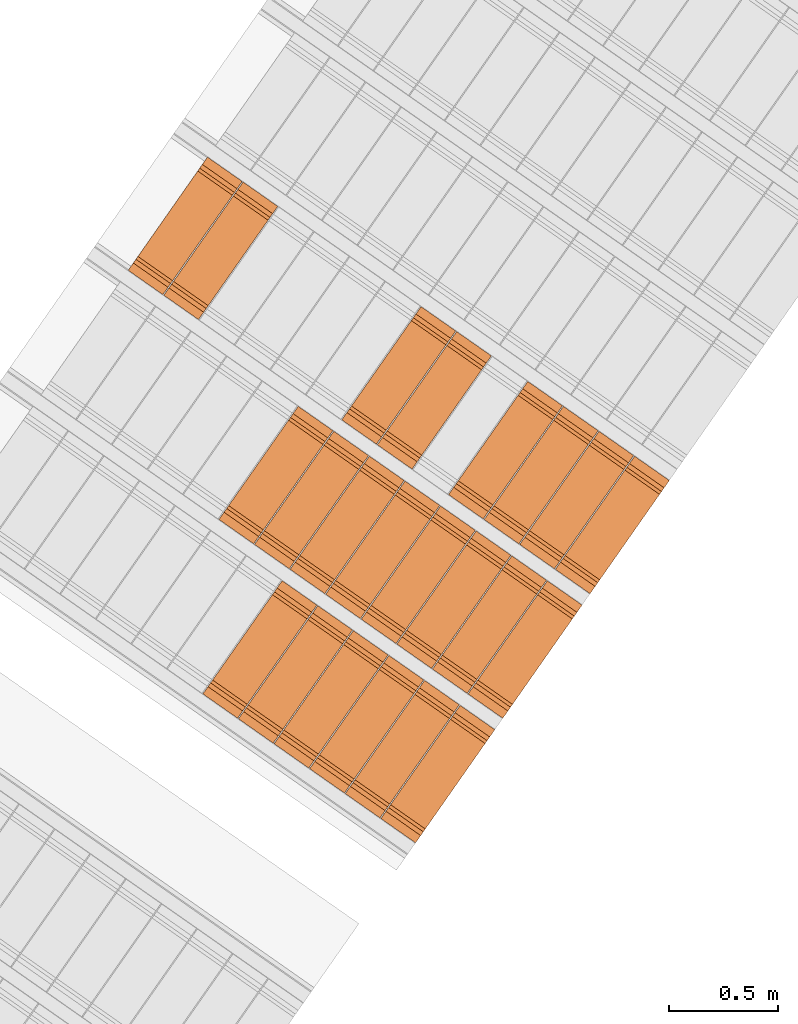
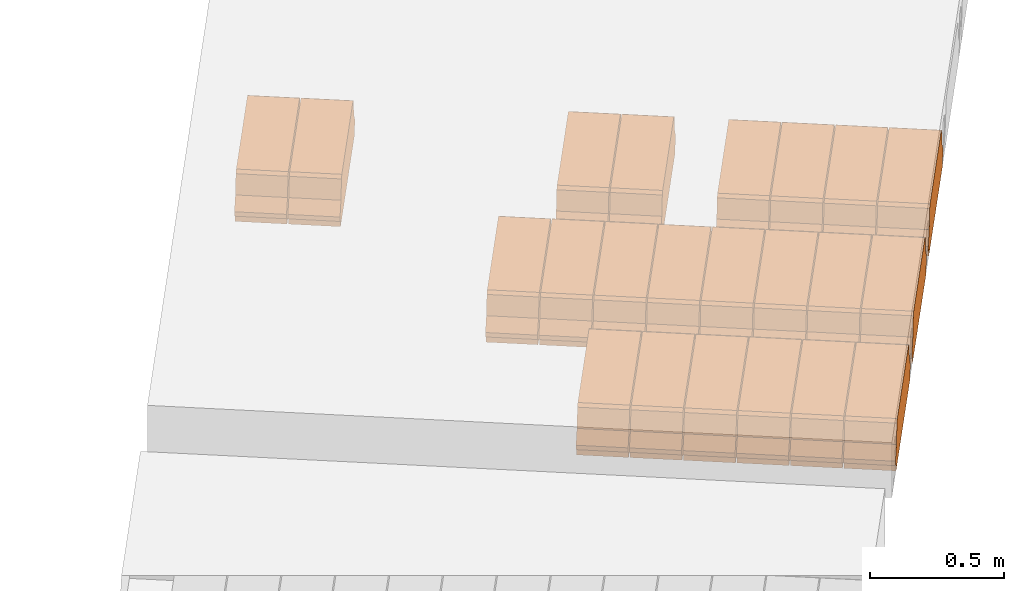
# One storey, part 6 of 8: 22 proxies.
"""IFC2X3 building model written with IfcOpenShell, lengths in metres."""

from ifc_helpers import new_model, entity, si_unit, converted_unit, derived_unit, direction, frame, origin, place, context, subcontext, project, spatial, polyline, outline, extrude, type_object, element, save


model = new_model("IFC2X3")

# Units and contexts
model_context = context("Model", 3, precision=1e-05, world=origin(), true_north=direction((6.123031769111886e-17, 1.0)))
body_context = subcontext(model_context, "Body", "Model", "MODEL_VIEW")
ifc_project = project(units=[si_unit("LENGTHUNIT", "METRE"), si_unit("AREAUNIT", "SQUARE_METRE"), si_unit("VOLUMEUNIT", "CUBIC_METRE"), converted_unit("PLANEANGLEUNIT", "DEGREE", entity("IfcPlaneAngleMeasure", 0.017453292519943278), si_unit("PLANEANGLEUNIT", "RADIAN"), dimensions=[0, 0, 0, 0, 0, 0, 0]), si_unit("MASSUNIT", "GRAM", prefix="KILO"), derived_unit("MASSDENSITYUNIT", [(si_unit("MASSUNIT", "GRAM", prefix="KILO"), 1), (si_unit("LENGTHUNIT", "METRE"), -3)]), derived_unit("IONCONCENTRATIONUNIT", [(si_unit("MASSUNIT", "GRAM", prefix="KILO"), 1), (si_unit("LENGTHUNIT", "METRE"), -3)]), derived_unit("MOMENTOFINERTIAUNIT", [(si_unit("LENGTHUNIT", "METRE"), 4)]), si_unit("TIMEUNIT", "SECOND"), si_unit("FREQUENCYUNIT", "HERTZ"), si_unit("THERMODYNAMICTEMPERATUREUNIT", "DEGREE_CELSIUS"), derived_unit("THERMALTRANSMITTANCEUNIT", [(si_unit("MASSUNIT", "GRAM", prefix="KILO"), 1), (si_unit("THERMODYNAMICTEMPERATUREUNIT", "KELVIN"), -1), (si_unit("TIMEUNIT", "SECOND"), -3)]), derived_unit("THERMALCONDUCTANCEUNIT", [(si_unit("MASSUNIT", "GRAM", prefix="KILO"), 1), (si_unit("THERMODYNAMICTEMPERATUREUNIT", "KELVIN"), -1), (si_unit("TIMEUNIT", "SECOND"), -3), (si_unit("LENGTHUNIT", "METRE"), 1)]), derived_unit("VOLUMETRICFLOWRATEUNIT", [(si_unit("LENGTHUNIT", "METRE", prefix="DECI"), 3), (si_unit("TIMEUNIT", "SECOND"), -1)]), derived_unit("MASSFLOWRATEUNIT", [(si_unit("MASSUNIT", "GRAM", prefix="KILO"), 1), (si_unit("TIMEUNIT", "SECOND"), -1)]), derived_unit("ROTATIONALFREQUENCYUNIT", [(si_unit("TIMEUNIT", "SECOND"), -1)]), si_unit("ELECTRICCURRENTUNIT", "AMPERE"), si_unit("ELECTRICVOLTAGEUNIT", "VOLT"), si_unit("POWERUNIT", "WATT"), si_unit("FORCEUNIT", "NEWTON", prefix="KILO"), si_unit("ILLUMINANCEUNIT", "LUX"), si_unit("LUMINOUSFLUXUNIT", "LUMEN"), si_unit("LUMINOUSINTENSITYUNIT", "CANDELA"), si_unit("ENERGYUNIT", "JOULE"), derived_unit("USERDEFINED", [(si_unit("MASSUNIT", "GRAM", prefix="KILO"), -1), (si_unit("LENGTHUNIT", "METRE"), -2), (si_unit("TIMEUNIT", "SECOND"), 3), (si_unit("LUMINOUSFLUXUNIT", "LUMEN"), 1)]), derived_unit("USERDEFINED", [(si_unit("MASSUNIT", "GRAM", prefix="KILO"), 1), (si_unit("TIMEUNIT", "SECOND"), -3), (si_unit("LENGTHUNIT", "METRE"), 3), (si_unit("ELECTRICCURRENTUNIT", "AMPERE"), -2)]), derived_unit("SOUNDPOWERUNIT", [(si_unit("MASSUNIT", "GRAM", prefix="KILO"), 1), (si_unit("TIMEUNIT", "SECOND"), -3), (si_unit("LENGTHUNIT", "METRE"), 2)]), derived_unit("SOUNDPRESSUREUNIT", [(si_unit("MASSUNIT", "GRAM", prefix="KILO"), 1), (si_unit("LENGTHUNIT", "METRE"), -1), (si_unit("TIMEUNIT", "SECOND"), -2)]), derived_unit("LINEARVELOCITYUNIT", [(si_unit("LENGTHUNIT", "METRE"), 1), (si_unit("TIMEUNIT", "SECOND"), -1)]), si_unit("PRESSUREUNIT", "PASCAL"), derived_unit("USERDEFINED", [(si_unit("MASSUNIT", "GRAM", prefix="KILO"), 1), (si_unit("LENGTHUNIT", "METRE"), -2), (si_unit("TIMEUNIT", "SECOND"), -2)]), derived_unit("LINEARFORCEUNIT", [(si_unit("MASSUNIT", "GRAM", prefix="KILO"), 1), (si_unit("TIMEUNIT", "SECOND"), -2)]), derived_unit("PLANARFORCEUNIT", [(si_unit("MASSUNIT", "GRAM", prefix="KILO"), 1), (si_unit("LENGTHUNIT", "METRE"), -1), (si_unit("TIMEUNIT", "SECOND"), -2)]), derived_unit("SPECIFICHEATCAPACITYUNIT", [(si_unit("THERMODYNAMICTEMPERATUREUNIT", "KELVIN"), -1), (si_unit("LENGTHUNIT", "METRE"), 2), (si_unit("TIMEUNIT", "SECOND"), -2)]), derived_unit("HEATFLUXDENSITYUNIT", [(si_unit("MASSUNIT", "GRAM", prefix="KILO"), 1), (si_unit("TIMEUNIT", "SECOND"), -3)]), derived_unit("HEATINGVALUEUNIT", [(si_unit("LENGTHUNIT", "METRE"), 2), (si_unit("TIMEUNIT", "SECOND"), -2)]), derived_unit("VAPORPERMEABILITYUNIT", [(si_unit("LENGTHUNIT", "METRE"), -1), (si_unit("TIMEUNIT", "SECOND"), 1)]), derived_unit("DYNAMICVISCOSITYUNIT", [(si_unit("MASSUNIT", "GRAM", prefix="KILO"), 1), (si_unit("TIMEUNIT", "SECOND"), -1), (si_unit("LENGTHUNIT", "METRE"), -1)]), derived_unit("THERMALEXPANSIONCOEFFICIENTUNIT", [(si_unit("THERMODYNAMICTEMPERATUREUNIT", "KELVIN"), -1)]), derived_unit("MODULUSOFELASTICITYUNIT", [(si_unit("MASSUNIT", "GRAM", prefix="KILO"), 1), (si_unit("LENGTHUNIT", "METRE"), -1), (si_unit("TIMEUNIT", "SECOND"), -2)]), derived_unit("ISOTHERMALMOISTURECAPACITYUNIT", [(si_unit("MASSUNIT", "GRAM", prefix="KILO"), -1), (si_unit("LENGTHUNIT", "METRE"), 3)]), derived_unit("MOISTUREDIFFUSIVITYUNIT", [(si_unit("TIMEUNIT", "SECOND"), -1), (si_unit("LENGTHUNIT", "METRE"), 2)]), derived_unit("MASSPERLENGTHUNIT", [(si_unit("MASSUNIT", "GRAM", prefix="KILO"), 1), (si_unit("LENGTHUNIT", "METRE"), -1)]), derived_unit("THERMALRESISTANCEUNIT", [(si_unit("MASSUNIT", "GRAM", prefix="KILO"), -1), (si_unit("TIMEUNIT", "SECOND"), 3), (si_unit("THERMODYNAMICTEMPERATUREUNIT", "KELVIN"), 1)]), derived_unit("ACCELERATIONUNIT", [(si_unit("LENGTHUNIT", "METRE"), 1), (si_unit("TIMEUNIT", "SECOND"), -2)]), derived_unit("ANGULARVELOCITYUNIT", [(si_unit("TIMEUNIT", "SECOND"), -1), (si_unit("PLANEANGLEUNIT", "RADIAN"), 1)]), derived_unit("LINEARSTIFFNESSUNIT", [(si_unit("MASSUNIT", "GRAM", prefix="KILO"), 1), (si_unit("TIMEUNIT", "SECOND"), -2)]), derived_unit("WARPINGCONSTANTUNIT", [(si_unit("LENGTHUNIT", "METRE"), 6)]), derived_unit("LINEARMOMENTUNIT", [(si_unit("MASSUNIT", "GRAM", prefix="KILO"), 1), (si_unit("LENGTHUNIT", "METRE"), 1), (si_unit("TIMEUNIT", "SECOND"), -2)]), derived_unit("TORQUEUNIT", [(si_unit("MASSUNIT", "GRAM", prefix="KILO"), 1), (si_unit("LENGTHUNIT", "METRE"), 2), (si_unit("TIMEUNIT", "SECOND"), -2)])], contexts=[model_context])

# Site, building, storey
site_placement = place(None, origin())
site = spatial("IfcSite", under=ifc_project, at=site_placement, Name="Default", CompositionType="ELEMENT")
building_placement = place(site_placement, origin())
building = spatial("IfcBuilding", under=site, at=building_placement, CompositionType="ELEMENT")
storey_placement = place(building_placement, frame((0.0, 0.0, 93.64)))
storey = spatial("IfcBuildingStorey", under=building, at=storey_placement, Name="Depósito_", CompositionType="ELEMENT", Elevation=93.64)

# Proxies
building_element_proxy_type_1 = type_object("IfcBuildingElementProxyType", Name="Bovedilla 1-1 (Paño 2)", PredefinedType="USERDEFINED")
proxy_1_placement = place(storey_placement, origin())
element("IfcBuildingElementProxy", 1, at=proxy_1_placement, inside=storey, type_object=building_element_proxy_type_1, Name="Bovedilla 1-1 (Paño 2)", ObjectType="FORM", context=body_context, shape_type="SweptSolid", body=[
    extrude(outline(polyline([(0.05816607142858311, -0.2949999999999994), (0.08997232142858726, -0.2949999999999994), (0.08997232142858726, 0.2950000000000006), (0.05816607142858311, 0.2950000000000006), (0.049972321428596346, 0.3180000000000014), (0.029972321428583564, 0.3180000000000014), (-0.018027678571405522, 0.2770000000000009), (-0.10002767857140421, 0.25600000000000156), (-0.11002767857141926, 0.24000000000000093), (-0.11002767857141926, -0.23999999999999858), (-0.10002767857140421, -0.2559999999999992), (-0.018027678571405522, -0.2769999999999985), (0.029972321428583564, -0.31799999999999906), (0.049972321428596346, -0.31799999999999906), (0.05816607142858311, -0.2949999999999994)])), frame((4.152848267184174, 5.733131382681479, 2.1381660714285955), z_axis=(0.8191520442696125, -0.5735764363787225, 0.0), x_axis=(0.0, 0.0, -1.0)), (0.0, 0.0, 1.0), 0.19500000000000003),
])
building_element_proxy_type_2 = type_object("IfcBuildingElementProxyType", Name="Bovedilla 1-2 (Paño 2)", PredefinedType="USERDEFINED")
proxy_2_placement = place(storey_placement, origin())
element("IfcBuildingElementProxy", 2, at=proxy_2_placement, inside=storey, type_object=building_element_proxy_type_2, Name="Bovedilla 1-2 (Paño 2)", ObjectType="FORM", context=body_context, shape_type="SweptSolid", body=[
    extrude(outline(polyline([(0.05816607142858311, -0.295000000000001), (0.08997232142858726, -0.295000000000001), (0.08997232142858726, 0.2949999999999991), (0.05816607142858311, 0.2949999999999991), (0.049972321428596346, 0.3180000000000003), (0.029972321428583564, 0.3180000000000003), (-0.018027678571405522, 0.2769999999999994), (-0.10002767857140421, 0.25600000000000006), (-0.11002767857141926, 0.23999999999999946), (-0.11002767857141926, -0.24000000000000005), (-0.10002767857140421, -0.25600000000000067), (-0.018027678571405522, -0.277), (0.029972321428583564, -0.31800000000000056), (0.049972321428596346, -0.31800000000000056), (0.05816607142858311, -0.295000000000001)])), frame((3.989017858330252, 5.847846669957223, 2.1381660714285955), z_axis=(0.8191520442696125, -0.5735764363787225, 0.0), x_axis=(0.0, 0.0, -1.0)), (0.0, 0.0, 1.0), 0.19500000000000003),
])
building_element_proxy_type_3 = type_object("IfcBuildingElementProxyType", Name="Bovedilla 1-3 (Paño 2)", PredefinedType="USERDEFINED")
proxy_3_placement = place(storey_placement, origin())
element("IfcBuildingElementProxy", 3, at=proxy_3_placement, inside=storey, type_object=building_element_proxy_type_3, Name="Bovedilla 1-3 (Paño 2)", ObjectType="FORM", context=body_context, shape_type="SweptSolid", body=[
    extrude(outline(polyline([(0.05816607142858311, -0.2949999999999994), (0.08997232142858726, -0.2949999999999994), (0.08997232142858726, 0.2950000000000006), (0.05816607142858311, 0.2950000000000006), (0.049972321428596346, 0.3180000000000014), (0.029972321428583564, 0.3180000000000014), (-0.018027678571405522, 0.2770000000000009), (-0.10002767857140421, 0.25600000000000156), (-0.11002767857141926, 0.24000000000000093), (-0.11002767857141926, -0.23999999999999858), (-0.10002767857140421, -0.2559999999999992), (-0.018027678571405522, -0.2769999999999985), (0.029972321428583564, -0.31799999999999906), (0.049972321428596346, -0.31799999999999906), (0.05816607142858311, -0.2949999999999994)])), frame((3.8251874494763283, 5.962561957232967, 2.1381660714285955), z_axis=(0.8191520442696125, -0.5735764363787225, 0.0), x_axis=(0.0, 0.0, -1.0)), (0.0, 0.0, 1.0), 0.19500000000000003),
])
building_element_proxy_type_4 = type_object("IfcBuildingElementProxyType", Name="Bovedilla 1-4 (Paño 2)", PredefinedType="USERDEFINED")
proxy_4_placement = place(storey_placement, origin())
element("IfcBuildingElementProxy", 4, at=proxy_4_placement, inside=storey, type_object=building_element_proxy_type_4, Name="Bovedilla 1-4 (Paño 2)", ObjectType="FORM", context=body_context, shape_type="SweptSolid", body=[
    extrude(outline(polyline([(0.05816607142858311, -0.2950000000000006), (0.08997232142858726, -0.2950000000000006), (0.08997232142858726, 0.2949999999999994), (0.05816607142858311, 0.2949999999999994), (0.049972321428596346, 0.3180000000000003), (0.029972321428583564, 0.3180000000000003), (-0.018027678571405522, 0.27699999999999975), (-0.10002767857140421, 0.2560000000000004), (-0.11002767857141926, 0.2399999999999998), (-0.11002767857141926, -0.2399999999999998), (-0.10002767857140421, -0.2560000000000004), (-0.018027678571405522, -0.27699999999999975), (0.029972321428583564, -0.3180000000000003), (0.049972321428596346, -0.3180000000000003), (0.05816607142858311, -0.2950000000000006)])), frame((3.661357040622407, 6.077277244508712, 2.1381660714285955), z_axis=(0.8191520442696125, -0.5735764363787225, 0.0), x_axis=(0.0, 0.0, -1.0)), (0.0, 0.0, 1.0), 0.19500000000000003),
])
building_element_proxy_type_5 = type_object("IfcBuildingElementProxyType", Name="Bovedilla 1-5 (Paño 2)", PredefinedType="USERDEFINED")
proxy_5_placement = place(storey_placement, origin())
element("IfcBuildingElementProxy", 5, at=proxy_5_placement, inside=storey, type_object=building_element_proxy_type_5, Name="Bovedilla 1-5 (Paño 2)", ObjectType="FORM", context=body_context, shape_type="SweptSolid", body=[
    extrude(outline(polyline([(0.05816607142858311, -0.2949999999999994), (0.08997232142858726, -0.2949999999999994), (0.08997232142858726, 0.2950000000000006), (0.05816607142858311, 0.2950000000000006), (0.049972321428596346, 0.3180000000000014), (0.029972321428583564, 0.3180000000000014), (-0.018027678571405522, 0.2770000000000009), (-0.10002767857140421, 0.25600000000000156), (-0.11002767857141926, 0.24000000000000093), (-0.11002767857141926, -0.23999999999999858), (-0.10002767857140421, -0.2559999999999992), (-0.018027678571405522, -0.2769999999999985), (0.029972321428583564, -0.31799999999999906), (0.049972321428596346, -0.31799999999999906), (0.05816607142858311, -0.2949999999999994)])), frame((3.4975266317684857, 6.1919925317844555, 2.1381660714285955), z_axis=(0.8191520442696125, -0.5735764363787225, 0.0), x_axis=(0.0, 0.0, -1.0)), (0.0, 0.0, 1.0), 0.19500000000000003),
])
building_element_proxy_type_6 = type_object("IfcBuildingElementProxyType", Name="Bovedilla 1-6 (Paño 2)", PredefinedType="USERDEFINED")
proxy_6_placement = place(storey_placement, origin())
element("IfcBuildingElementProxy", 6, at=proxy_6_placement, inside=storey, type_object=building_element_proxy_type_6, Name="Bovedilla 1-6 (Paño 2)", ObjectType="FORM", context=body_context, shape_type="SweptSolid", body=[
    extrude(outline(polyline([(0.05816607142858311, -0.2950000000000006), (0.08997232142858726, -0.2950000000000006), (0.08997232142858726, 0.2949999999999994), (0.05816607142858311, 0.2949999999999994), (0.049972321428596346, 0.31800000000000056), (0.029972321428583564, 0.31800000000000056), (-0.018027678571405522, 0.277), (-0.10002767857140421, 0.25600000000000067), (-0.11002767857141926, 0.24000000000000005), (-0.11002767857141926, -0.23999999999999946), (-0.10002767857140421, -0.25600000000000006), (-0.018027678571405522, -0.2769999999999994), (0.029972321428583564, -0.3180000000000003), (0.049972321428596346, -0.3180000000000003), (0.05816607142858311, -0.2950000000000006)])), frame((3.3336962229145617, 6.3067078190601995, 2.1381660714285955), z_axis=(0.8191520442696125, -0.5735764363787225, 0.0), x_axis=(0.0, 0.0, -1.0)), (0.0, 0.0, 1.0), 0.19500000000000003),
])
building_element_proxy_type_7 = type_object("IfcBuildingElementProxyType", Name="Bovedilla 2-1 (Paño 2)", PredefinedType="USERDEFINED")
proxy_7_placement = place(storey_placement, origin())
element("IfcBuildingElementProxy", 7, at=proxy_7_placement, inside=storey, type_object=building_element_proxy_type_7, Name="Bovedilla 2-1 (Paño 2)", ObjectType="FORM", context=body_context, shape_type="SweptSolid", body=[
    extrude(outline(polyline([(0.05816607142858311, -0.2950000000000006), (0.08997232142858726, -0.2950000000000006), (0.08997232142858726, 0.2949999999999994), (0.05816607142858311, 0.2949999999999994), (0.049972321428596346, 0.3180000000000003), (0.029972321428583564, 0.3180000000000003), (-0.018027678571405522, 0.27699999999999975), (-0.10002767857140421, 0.2560000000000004), (-0.11002767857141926, 0.2399999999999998), (-0.11002767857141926, -0.2399999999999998), (-0.10002767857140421, -0.2560000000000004), (-0.018027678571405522, -0.27699999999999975), (0.029972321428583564, -0.3180000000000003), (0.049972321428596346, -0.3180000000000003), (0.05816607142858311, -0.2950000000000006)])), frame((4.554351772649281, 6.306537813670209, 2.1381660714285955), z_axis=(0.8191520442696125, -0.5735764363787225, 0.0), x_axis=(0.0, 0.0, -1.0)), (0.0, 0.0, 1.0), 0.19500000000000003),
])
building_element_proxy_type_8 = type_object("IfcBuildingElementProxyType", Name="Bovedilla 2-2 (Paño 2)", PredefinedType="USERDEFINED")
proxy_8_placement = place(storey_placement, origin())
element("IfcBuildingElementProxy", 8, at=proxy_8_placement, inside=storey, type_object=building_element_proxy_type_8, Name="Bovedilla 2-2 (Paño 2)", ObjectType="FORM", context=body_context, shape_type="SweptSolid", body=[
    extrude(outline(polyline([(0.05816607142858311, -0.2949999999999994), (0.08997232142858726, -0.2949999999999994), (0.08997232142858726, 0.2950000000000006), (0.05816607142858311, 0.2950000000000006), (0.049972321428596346, 0.3180000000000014), (0.029972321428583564, 0.3180000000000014), (-0.018027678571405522, 0.2770000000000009), (-0.10002767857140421, 0.25600000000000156), (-0.11002767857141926, 0.24000000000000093), (-0.11002767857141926, -0.23999999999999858), (-0.10002767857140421, -0.2559999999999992), (-0.018027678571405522, -0.2769999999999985), (0.029972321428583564, -0.31799999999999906), (0.049972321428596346, -0.31799999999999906), (0.05816607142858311, -0.2949999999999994)])), frame((4.390521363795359, 6.42125310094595, 2.1381660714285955), z_axis=(0.8191520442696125, -0.5735764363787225, 0.0), x_axis=(0.0, 0.0, -1.0)), (0.0, 0.0, 1.0), 0.19500000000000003),
])
building_element_proxy_type_9 = type_object("IfcBuildingElementProxyType", Name="Bovedilla 2-3 (Paño 2)", PredefinedType="USERDEFINED")
proxy_9_placement = place(storey_placement, origin())
element("IfcBuildingElementProxy", 9, at=proxy_9_placement, inside=storey, type_object=building_element_proxy_type_9, Name="Bovedilla 2-3 (Paño 2)", ObjectType="FORM", context=body_context, shape_type="SweptSolid", body=[
    extrude(outline(polyline([(0.05816607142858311, -0.2949999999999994), (0.08997232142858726, -0.2949999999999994), (0.08997232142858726, 0.2950000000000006), (0.05816607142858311, 0.2950000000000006), (0.049972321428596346, 0.3180000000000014), (0.029972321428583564, 0.3180000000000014), (-0.018027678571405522, 0.2770000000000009), (-0.10002767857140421, 0.25600000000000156), (-0.11002767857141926, 0.24000000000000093), (-0.11002767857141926, -0.23999999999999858), (-0.10002767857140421, -0.2559999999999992), (-0.018027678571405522, -0.2769999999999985), (0.029972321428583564, -0.31799999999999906), (0.049972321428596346, -0.31799999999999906), (0.05816607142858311, -0.2949999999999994)])), frame((4.226690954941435, 6.535968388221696, 2.1381660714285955), z_axis=(0.8191520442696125, -0.5735764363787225, 0.0), x_axis=(0.0, 0.0, -1.0)), (0.0, 0.0, 1.0), 0.19500000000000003),
])
building_element_proxy_type_10 = type_object("IfcBuildingElementProxyType", Name="Bovedilla 2-4 (Paño 2)", PredefinedType="USERDEFINED")
proxy_10_placement = place(storey_placement, origin())
element("IfcBuildingElementProxy", 10, at=proxy_10_placement, inside=storey, type_object=building_element_proxy_type_10, Name="Bovedilla 2-4 (Paño 2)", ObjectType="FORM", context=body_context, shape_type="SweptSolid", body=[
    extrude(outline(polyline([(0.05816607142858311, -0.2950000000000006), (0.08997232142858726, -0.2950000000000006), (0.08997232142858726, 0.2949999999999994), (0.05816607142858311, 0.2949999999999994), (0.049972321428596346, 0.3180000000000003), (0.029972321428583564, 0.3180000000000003), (-0.018027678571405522, 0.27699999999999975), (-0.10002767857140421, 0.2560000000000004), (-0.11002767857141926, 0.2399999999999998), (-0.11002767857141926, -0.2399999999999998), (-0.10002767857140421, -0.2560000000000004), (-0.018027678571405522, -0.27699999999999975), (0.029972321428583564, -0.3180000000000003), (0.049972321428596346, -0.3180000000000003), (0.05816607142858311, -0.2950000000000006)])), frame((4.062860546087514, 6.650683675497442, 2.1381660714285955), z_axis=(0.8191520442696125, -0.5735764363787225, 0.0), x_axis=(0.0, 0.0, -1.0)), (0.0, 0.0, 1.0), 0.19500000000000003),
])
building_element_proxy_type_11 = type_object("IfcBuildingElementProxyType", Name="Bovedilla 2-5 (Paño 2)", PredefinedType="USERDEFINED")
proxy_11_placement = place(storey_placement, origin())
element("IfcBuildingElementProxy", 11, at=proxy_11_placement, inside=storey, type_object=building_element_proxy_type_11, Name="Bovedilla 2-5 (Paño 2)", ObjectType="FORM", context=body_context, shape_type="SweptSolid", body=[
    extrude(outline(polyline([(0.05816607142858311, -0.2950000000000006), (0.08997232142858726, -0.2950000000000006), (0.08997232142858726, 0.2949999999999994), (0.05816607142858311, 0.2949999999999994), (0.049972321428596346, 0.3180000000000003), (0.029972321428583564, 0.3180000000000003), (-0.018027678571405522, 0.27699999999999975), (-0.10002767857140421, 0.2560000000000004), (-0.11002767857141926, 0.2399999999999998), (-0.11002767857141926, -0.2399999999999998), (-0.10002767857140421, -0.2560000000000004), (-0.018027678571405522, -0.27699999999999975), (0.029972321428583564, -0.3180000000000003), (0.049972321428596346, -0.3180000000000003), (0.05816607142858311, -0.2950000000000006)])), frame((3.899030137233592, 6.765398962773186, 2.1381660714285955), z_axis=(0.8191520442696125, -0.5735764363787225, 0.0), x_axis=(0.0, 0.0, -1.0)), (0.0, 0.0, 1.0), 0.19500000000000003),
])
building_element_proxy_type_12 = type_object("IfcBuildingElementProxyType", Name="Bovedilla 2-6 (Paño 2)", PredefinedType="USERDEFINED")
proxy_12_placement = place(storey_placement, origin())
element("IfcBuildingElementProxy", 12, at=proxy_12_placement, inside=storey, type_object=building_element_proxy_type_12, Name="Bovedilla 2-6 (Paño 2)", ObjectType="FORM", context=body_context, shape_type="SweptSolid", body=[
    extrude(outline(polyline([(0.05816607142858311, -0.2949999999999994), (0.08997232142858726, -0.2949999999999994), (0.08997232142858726, 0.2950000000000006), (0.05816607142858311, 0.2950000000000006), (0.049972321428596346, 0.3180000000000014), (0.029972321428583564, 0.3180000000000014), (-0.018027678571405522, 0.2770000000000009), (-0.10002767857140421, 0.25600000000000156), (-0.11002767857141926, 0.24000000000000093), (-0.11002767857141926, -0.23999999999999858), (-0.10002767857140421, -0.2559999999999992), (-0.018027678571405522, -0.2769999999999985), (0.029972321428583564, -0.31799999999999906), (0.049972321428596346, -0.31799999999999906), (0.05816607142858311, -0.2949999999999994)])), frame((3.735199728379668, 6.880114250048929, 2.1381660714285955), z_axis=(0.8191520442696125, -0.5735764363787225, 0.0), x_axis=(0.0, 0.0, -1.0)), (0.0, 0.0, 1.0), 0.19500000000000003),
])
building_element_proxy_type_13 = type_object("IfcBuildingElementProxyType", Name="Bovedilla 2-7 (Paño 2)", PredefinedType="USERDEFINED")
proxy_13_placement = place(storey_placement, origin())
element("IfcBuildingElementProxy", 13, at=proxy_13_placement, inside=storey, type_object=building_element_proxy_type_13, Name="Bovedilla 2-7 (Paño 2)", ObjectType="FORM", context=body_context, shape_type="SweptSolid", body=[
    extrude(outline(polyline([(0.05816607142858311, -0.2949999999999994), (0.08997232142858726, -0.2949999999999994), (0.08997232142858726, 0.2950000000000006), (0.05816607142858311, 0.2950000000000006), (0.049972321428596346, 0.3180000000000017), (0.029972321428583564, 0.3180000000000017), (-0.018027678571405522, 0.27700000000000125), (-0.10002767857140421, 0.2560000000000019), (-0.11002767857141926, 0.24000000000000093), (-0.11002767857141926, -0.23999999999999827), (-0.10002767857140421, -0.2559999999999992), (-0.018027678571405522, -0.2769999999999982), (0.029972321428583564, -0.31799999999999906), (0.049972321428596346, -0.31799999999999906), (0.05816607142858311, -0.2949999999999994)])), frame((3.571369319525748, 6.994829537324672, 2.1381660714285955), z_axis=(0.8191520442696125, -0.5735764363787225, 0.0), x_axis=(0.0, 0.0, -1.0)), (0.0, 0.0, 1.0), 0.19500000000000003),
])
building_element_proxy_type_14 = type_object("IfcBuildingElementProxyType", Name="Bovedilla 2-8 (Paño 2)", PredefinedType="USERDEFINED")
proxy_14_placement = place(storey_placement, origin())
element("IfcBuildingElementProxy", 14, at=proxy_14_placement, inside=storey, type_object=building_element_proxy_type_14, Name="Bovedilla 2-8 (Paño 2)", ObjectType="FORM", context=body_context, shape_type="SweptSolid", body=[
    extrude(outline(polyline([(0.05816607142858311, -0.2950000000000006), (0.08997232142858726, -0.2950000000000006), (0.08997232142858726, 0.2949999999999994), (0.05816607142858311, 0.2949999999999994), (0.049972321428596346, 0.3180000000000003), (0.029972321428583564, 0.3180000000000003), (-0.018027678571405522, 0.27699999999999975), (-0.10002767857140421, 0.2560000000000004), (-0.11002767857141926, 0.2399999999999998), (-0.11002767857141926, -0.2399999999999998), (-0.10002767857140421, -0.2560000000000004), (-0.018027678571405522, -0.27699999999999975), (0.029972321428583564, -0.3180000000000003), (0.049972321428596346, -0.3180000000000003), (0.05816607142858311, -0.2950000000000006)])), frame((3.407538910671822, 7.109544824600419, 2.1381660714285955), z_axis=(0.8191520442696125, -0.5735764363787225, 0.0), x_axis=(0.0, 0.0, -1.0)), (0.0, 0.0, 1.0), 0.19500000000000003),
])
building_element_proxy_type_15 = type_object("IfcBuildingElementProxyType", Name="Bovedilla 3-1 (Paño 2)", PredefinedType="USERDEFINED")
proxy_15_placement = place(storey_placement, origin())
element("IfcBuildingElementProxy", 15, at=proxy_15_placement, inside=storey, type_object=building_element_proxy_type_15, Name="Bovedilla 3-1 (Paño 2)", ObjectType="FORM", context=body_context, shape_type="SweptSolid", body=[
    extrude(outline(polyline([(0.05816607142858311, -0.2949999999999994), (0.08997232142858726, -0.2949999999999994), (0.08997232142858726, 0.2950000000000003), (0.05816607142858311, 0.2950000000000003), (0.049972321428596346, 0.3180000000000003), (0.029972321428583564, 0.3180000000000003), (-0.018027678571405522, 0.2770000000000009), (-0.10002767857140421, 0.2560000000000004), (-0.11002767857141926, 0.2399999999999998), (-0.11002767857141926, -0.23999999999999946), (-0.10002767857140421, -0.25600000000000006), (-0.018027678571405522, -0.2769999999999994), (0.029972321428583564, -0.31799999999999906), (0.049972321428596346, -0.31799999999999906), (0.05816607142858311, -0.2949999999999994)])), frame((4.955855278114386, 6.8799442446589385, 2.1381660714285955), z_axis=(0.8191520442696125, -0.5735764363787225, 0.0), x_axis=(0.0, 0.0, -1.0)), (0.0, 0.0, 1.0), 0.19500000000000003),
])
building_element_proxy_type_16 = type_object("IfcBuildingElementProxyType", Name="Bovedilla 3-2 (Paño 2)", PredefinedType="USERDEFINED")
proxy_16_placement = place(storey_placement, origin())
element("IfcBuildingElementProxy", 16, at=proxy_16_placement, inside=storey, type_object=building_element_proxy_type_16, Name="Bovedilla 3-2 (Paño 2)", ObjectType="FORM", context=body_context, shape_type="SweptSolid", body=[
    extrude(outline(polyline([(0.05816607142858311, -0.2949999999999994), (0.08997232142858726, -0.2949999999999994), (0.08997232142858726, 0.2950000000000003), (0.05816607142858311, 0.2950000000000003), (0.049972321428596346, 0.3180000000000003), (0.029972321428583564, 0.3180000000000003), (-0.018027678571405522, 0.2770000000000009), (-0.10002767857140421, 0.2560000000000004), (-0.11002767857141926, 0.2399999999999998), (-0.11002767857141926, -0.23999999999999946), (-0.10002767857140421, -0.25600000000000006), (-0.018027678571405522, -0.2769999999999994), (0.029972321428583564, -0.31799999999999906), (0.049972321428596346, -0.31799999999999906), (0.05816607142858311, -0.2949999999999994)])), frame((4.792024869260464, 6.994659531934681, 2.1381660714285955), z_axis=(0.8191520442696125, -0.5735764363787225, 0.0), x_axis=(0.0, 0.0, -1.0)), (0.0, 0.0, 1.0), 0.19500000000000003),
])
building_element_proxy_type_17 = type_object("IfcBuildingElementProxyType", Name="Bovedilla 3-3 (Paño 2)", PredefinedType="USERDEFINED")
proxy_17_placement = place(storey_placement, origin())
element("IfcBuildingElementProxy", 17, at=proxy_17_placement, inside=storey, type_object=building_element_proxy_type_17, Name="Bovedilla 3-3 (Paño 2)", ObjectType="FORM", context=body_context, shape_type="SweptSolid", body=[
    extrude(outline(polyline([(0.05816607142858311, -0.2949999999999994), (0.08997232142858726, -0.2949999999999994), (0.08997232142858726, 0.2950000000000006), (0.05816607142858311, 0.2950000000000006), (0.049972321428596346, 0.3180000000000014), (0.029972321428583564, 0.3180000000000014), (-0.018027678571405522, 0.2770000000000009), (-0.10002767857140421, 0.25600000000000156), (-0.11002767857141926, 0.24000000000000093), (-0.11002767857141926, -0.23999999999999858), (-0.10002767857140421, -0.2559999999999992), (-0.018027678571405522, -0.2769999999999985), (0.029972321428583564, -0.31799999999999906), (0.049972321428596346, -0.31799999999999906), (0.05816607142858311, -0.2949999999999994)])), frame((4.628194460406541, 7.109374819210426, 2.1381660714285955), z_axis=(0.8191520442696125, -0.5735764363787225, 0.0), x_axis=(0.0, 0.0, -1.0)), (0.0, 0.0, 1.0), 0.19500000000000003),
])
building_element_proxy_type_18 = type_object("IfcBuildingElementProxyType", Name="Bovedilla 3-4 (Paño 2)", PredefinedType="USERDEFINED")
proxy_18_placement = place(storey_placement, origin())
element("IfcBuildingElementProxy", 18, at=proxy_18_placement, inside=storey, type_object=building_element_proxy_type_18, Name="Bovedilla 3-4 (Paño 2)", ObjectType="FORM", context=body_context, shape_type="SweptSolid", body=[
    extrude(outline(polyline([(0.05816607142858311, -0.2949999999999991), (0.08997232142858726, -0.2949999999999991), (0.08997232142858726, 0.295000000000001), (0.05816607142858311, 0.295000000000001), (0.049972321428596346, 0.3180000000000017), (0.029972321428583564, 0.3180000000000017), (-0.018027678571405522, 0.27700000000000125), (-0.10002767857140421, 0.2560000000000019), (-0.11002767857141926, 0.24000000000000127), (-0.11002767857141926, -0.23999999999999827), (-0.10002767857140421, -0.2559999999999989), (-0.018027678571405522, -0.2769999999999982), (0.029972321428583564, -0.31799999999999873), (0.049972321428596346, -0.31799999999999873), (0.05816607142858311, -0.2949999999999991)])), frame((4.46436405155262, 7.224090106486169, 2.1381660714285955), z_axis=(0.8191520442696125, -0.5735764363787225, 0.0), x_axis=(0.0, 0.0, -1.0)), (0.0, 0.0, 1.0), 0.19500000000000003),
])
building_element_proxy_type_19 = type_object("IfcBuildingElementProxyType", Name="Bovedilla 3-6 (Paño 2)", PredefinedType="USERDEFINED")
proxy_19_placement = place(storey_placement, origin())
element("IfcBuildingElementProxy", 19, at=proxy_19_placement, inside=storey, type_object=building_element_proxy_type_19, Name="Bovedilla 3-6 (Paño 2)", ObjectType="FORM", context=body_context, shape_type="SweptSolid", body=[
    extrude(outline(polyline([(0.05816607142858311, -0.295000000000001), (0.08997232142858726, -0.295000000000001), (0.08997232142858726, 0.2949999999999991), (0.05816607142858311, 0.2949999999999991), (0.049972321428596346, 0.31799999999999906), (0.029972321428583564, 0.31799999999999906), (-0.018027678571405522, 0.2769999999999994), (-0.10002767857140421, 0.25600000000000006), (-0.11002767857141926, 0.23999999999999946), (-0.11002767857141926, -0.24000000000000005), (-0.10002767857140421, -0.25600000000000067), (-0.018027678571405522, -0.277), (0.029972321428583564, -0.31800000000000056), (0.049972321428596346, -0.31800000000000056), (0.05816607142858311, -0.295000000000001)])), frame((4.1367032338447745, 7.453520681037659, 2.1381660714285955), z_axis=(0.8191520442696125, -0.5735764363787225, 0.0), x_axis=(0.0, 0.0, -1.0)), (0.0, 0.0, 1.0), 0.19500000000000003),
])
building_element_proxy_type_20 = type_object("IfcBuildingElementProxyType", Name="Bovedilla 3-7 (Paño 2)", PredefinedType="USERDEFINED")
proxy_20_placement = place(storey_placement, origin())
element("IfcBuildingElementProxy", 20, at=proxy_20_placement, inside=storey, type_object=building_element_proxy_type_20, Name="Bovedilla 3-7 (Paño 2)", ObjectType="FORM", context=body_context, shape_type="SweptSolid", body=[
    extrude(outline(polyline([(0.05816607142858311, -0.2949999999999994), (0.08997232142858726, -0.2949999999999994), (0.08997232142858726, 0.2950000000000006), (0.05816607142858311, 0.2950000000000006), (0.049972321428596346, 0.3180000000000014), (0.029972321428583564, 0.3180000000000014), (-0.018027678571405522, 0.2770000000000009), (-0.10002767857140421, 0.25600000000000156), (-0.11002767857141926, 0.24000000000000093), (-0.11002767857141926, -0.23999999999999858), (-0.10002767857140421, -0.2559999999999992), (-0.018027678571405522, -0.2769999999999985), (0.029972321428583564, -0.31799999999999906), (0.049972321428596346, -0.31799999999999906), (0.05816607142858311, -0.2949999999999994)])), frame((3.9728728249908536, 7.568235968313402, 2.1381660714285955), z_axis=(0.8191520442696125, -0.5735764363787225, 0.0), x_axis=(0.0, 0.0, -1.0)), (0.0, 0.0, 1.0), 0.19500000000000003),
])
building_element_proxy_type_21 = type_object("IfcBuildingElementProxyType", Name="Bovedilla 3-12 (Paño 2)", PredefinedType="USERDEFINED")
proxy_21_placement = place(storey_placement, origin())
element("IfcBuildingElementProxy", 21, at=proxy_21_placement, inside=storey, type_object=building_element_proxy_type_21, Name="Bovedilla 3-12 (Paño 2)", ObjectType="FORM", context=body_context, shape_type="SweptSolid", body=[
    extrude(outline(polyline([(0.05816607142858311, -0.29499999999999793), (0.08997232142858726, -0.29499999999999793), (0.08997232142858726, 0.2950000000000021), (0.05816607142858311, 0.2950000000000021), (0.049972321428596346, 0.3180000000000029), (0.029972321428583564, 0.3180000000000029), (-0.018027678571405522, 0.2770000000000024), (-0.10002767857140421, 0.2560000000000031), (-0.11002767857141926, 0.24000000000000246), (-0.11002767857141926, -0.23999999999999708), (-0.10002767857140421, -0.25599999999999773), (-0.018027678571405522, -0.27699999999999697), (0.029972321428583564, -0.3179999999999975), (0.049972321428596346, -0.3179999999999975), (0.05816607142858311, -0.29499999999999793)])), frame((3.153720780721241, 8.141812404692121, 2.1381660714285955), z_axis=(0.8191520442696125, -0.5735764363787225, 0.0), x_axis=(0.0, 0.0, -1.0)), (0.0, 0.0, 1.0), 0.19500000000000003),
])
building_element_proxy_type_22 = type_object("IfcBuildingElementProxyType", Name="Bovedilla 3-13 (Paño 2)", PredefinedType="USERDEFINED")
proxy_22_placement = place(storey_placement, origin())
element("IfcBuildingElementProxy", 22, at=proxy_22_placement, inside=storey, type_object=building_element_proxy_type_22, Name="Bovedilla 3-13 (Paño 2)", ObjectType="FORM", context=body_context, shape_type="SweptSolid", body=[
    extrude(outline(polyline([(0.05816607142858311, -0.2950000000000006), (0.08997232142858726, -0.2950000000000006), (0.08997232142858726, 0.2949999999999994), (0.05816607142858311, 0.2949999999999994), (0.049972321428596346, 0.3180000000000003), (0.029972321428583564, 0.3180000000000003), (-0.018027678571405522, 0.27699999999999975), (-0.10002767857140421, 0.2560000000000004), (-0.11002767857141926, 0.2399999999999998), (-0.11002767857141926, -0.2399999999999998), (-0.10002767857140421, -0.2560000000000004), (-0.018027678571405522, -0.27699999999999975), (0.029972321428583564, -0.3180000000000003), (0.049972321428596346, -0.3180000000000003), (0.05816607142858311, -0.2950000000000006)])), frame((2.989890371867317, 8.256527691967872, 2.1381660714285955), z_axis=(0.8191520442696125, -0.5735764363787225, 0.0), x_axis=(0.0, 0.0, -1.0)), (0.0, 0.0, 1.0), 0.19500000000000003),
])

save(model, "model.ifc")
